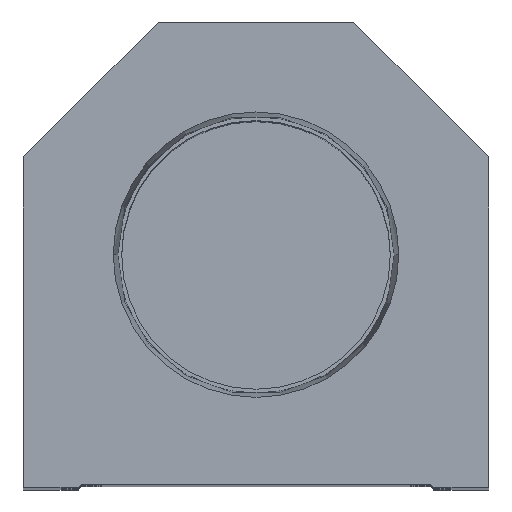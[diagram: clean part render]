
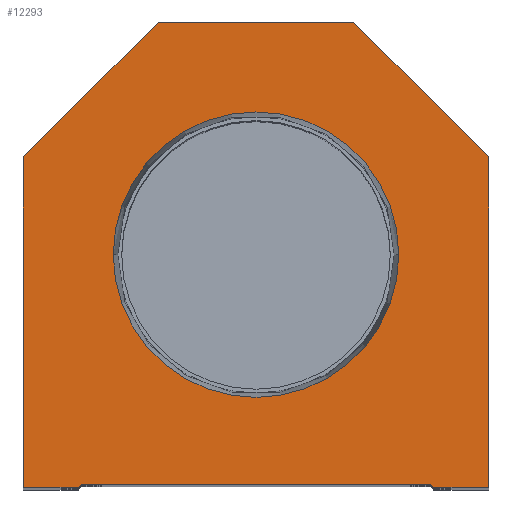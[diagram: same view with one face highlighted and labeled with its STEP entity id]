
A CAD part, top view. The second image highlights one B-rep face of the part: STEP entity #12293.
In plain terms, the highlighted planar face has unit normal (0, 0, 1).
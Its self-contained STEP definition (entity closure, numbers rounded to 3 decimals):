
#145 = ORIENTED_EDGE ( 'NONE', *, *, #10434, .T. ) ;
#711 = DIRECTION ( 'NONE',  ( 1., 0., 0. ) ) ;
#785 = EDGE_CURVE ( 'NONE', #1293, #3978, #13364, .T. ) ;
#1169 = VERTEX_POINT ( 'NONE', #11177 ) ;
#1179 = ORIENTED_EDGE ( 'NONE', *, *, #4977, .T. ) ;
#1293 = VERTEX_POINT ( 'NONE', #13226 ) ;
#1436 = VECTOR ( 'NONE', #4832, 1000. ) ;
#1624 = EDGE_CURVE ( 'NONE', #3978, #3878, #14485, .T. ) ;
#1856 = LINE ( 'NONE', #8742, #3808 ) ;
#1877 = FACE_BOUND ( 'NONE', #7282, .T. ) ;
#1973 = FACE_OUTER_BOUND ( 'NONE', #10553, .T. ) ;
#2153 = PLANE ( 'NONE',  #15951 ) ;
#2162 = CARTESIAN_POINT ( 'NONE',  ( 28.6, 0.5, 0. ) ) ;
#2211 = CIRCLE ( 'NONE', #15718, 23.374 ) ;
#2218 = CARTESIAN_POINT ( 'NONE',  ( 28.6, 0., 0. ) ) ;
#2314 = DIRECTION ( 'NONE',  ( 1., 0., 0. ) ) ;
#2437 = CARTESIAN_POINT ( 'NONE',  ( -28.6, 0.5, 0. ) ) ;
#2720 = VERTEX_POINT ( 'NONE', #14359 ) ;
#2945 = LINE ( 'NONE', #12783, #6847 ) ;
#3808 = VECTOR ( 'NONE', #13086, 1000. ) ;
#3878 = VERTEX_POINT ( 'NONE', #17147 ) ;
#3978 = VERTEX_POINT ( 'NONE', #9120 ) ;
#4209 = LINE ( 'NONE', #13898, #4899 ) ;
#4249 = DIRECTION ( 'NONE',  ( 1., 0., 0. ) ) ;
#4554 = VECTOR ( 'NONE', #9362, 1000. ) ;
#4832 = DIRECTION ( 'NONE',  ( 0., -1., 0. ) ) ;
#4899 = VECTOR ( 'NONE', #7034, 1000. ) ;
#4977 = EDGE_CURVE ( 'NONE', #14203, #1169, #2945, .T. ) ;
#5187 = EDGE_CURVE ( 'NONE', #17102, #11049, #9958, .T. ) ;
#5466 = CIRCLE ( 'NONE', #7524, 23.374 ) ;
#5533 = DIRECTION ( 'NONE',  ( 0., 0., 1. ) ) ;
#5560 = ORIENTED_EDGE ( 'NONE', *, *, #9514, .T. ) ;
#5703 = CARTESIAN_POINT ( 'NONE',  ( -38.1, 54.1, 0. ) ) ;
#5854 = CARTESIAN_POINT ( 'NONE',  ( -29.1, 0., 0. ) ) ;
#6301 = LINE ( 'NONE', #11853, #1436 ) ;
#6511 = CARTESIAN_POINT ( 'NONE',  ( -23.374, 38.1, 0. ) ) ;
#6691 = CARTESIAN_POINT ( 'NONE',  ( 23.374, 38.1, 0. ) ) ;
#6730 = ORIENTED_EDGE ( 'NONE', *, *, #12254, .T. ) ;
#6847 = VECTOR ( 'NONE', #11471, 1000. ) ;
#6848 = VERTEX_POINT ( 'NONE', #2162 ) ;
#7034 = DIRECTION ( 'NONE',  ( -0.707, -0.707, 0. ) ) ;
#7282 = EDGE_LOOP ( 'NONE', ( #7604, #12028 ) ) ;
#7524 = AXIS2_PLACEMENT_3D ( 'NONE', #11328, #15856, #16969 ) ;
#7577 = EDGE_CURVE ( 'NONE', #15036, #15064, #2211, .T. ) ;
#7604 = ORIENTED_EDGE ( 'NONE', *, *, #7577, .F. ) ;
#8742 = CARTESIAN_POINT ( 'NONE',  ( 14.55, 14.55, 0. ) ) ;
#8770 = DIRECTION ( 'NONE',  ( 1., 0., 0. ) ) ;
#8878 = VECTOR ( 'NONE', #14399, 1000. ) ;
#9079 = EDGE_CURVE ( 'NONE', #1169, #6848, #15303, .T. ) ;
#9120 = CARTESIAN_POINT ( 'NONE',  ( 38.1, 0., 0. ) ) ;
#9362 = DIRECTION ( 'NONE',  ( -0.707, 0.707, 0. ) ) ;
#9514 = EDGE_CURVE ( 'NONE', #13790, #2720, #6301, .T. ) ;
#9958 = LINE ( 'NONE', #13791, #11586 ) ;
#10434 = EDGE_CURVE ( 'NONE', #3878, #17102, #18115, .T. ) ;
#10553 = EDGE_LOOP ( 'NONE', ( #6730, #1179, #13447, #15778, #14317, #10788, #145, #14102, #15544, #5560 ) ) ;
#10788 = ORIENTED_EDGE ( 'NONE', *, *, #1624, .T. ) ;
#11049 = VERTEX_POINT ( 'NONE', #18144 ) ;
#11177 = CARTESIAN_POINT ( 'NONE',  ( -28.6, 0.5, 0. ) ) ;
#11328 = CARTESIAN_POINT ( 'NONE',  ( 0., 38.1, 0. ) ) ;
#11471 = DIRECTION ( 'NONE',  ( 0.707, 0.707, 0. ) ) ;
#11586 = VECTOR ( 'NONE', #17916, 1000. ) ;
#11853 = CARTESIAN_POINT ( 'NONE',  ( -38.1, 0., 0. ) ) ;
#12028 = ORIENTED_EDGE ( 'NONE', *, *, #13809, .F. ) ;
#12254 = EDGE_CURVE ( 'NONE', #2720, #14203, #15865, .T. ) ;
#12293 = ADVANCED_FACE ( 'NONE', ( #1877, #1973 ), #2153, .T. ) ;
#12351 = DIRECTION ( 'NONE',  ( 1., 0., 0. ) ) ;
#12733 = CARTESIAN_POINT ( 'NONE',  ( 0., 38.1, 0. ) ) ;
#12783 = CARTESIAN_POINT ( 'NONE',  ( -14.55, 14.55, 0. ) ) ;
#13086 = DIRECTION ( 'NONE',  ( 0.707, -0.707, 0. ) ) ;
#13164 = VECTOR ( 'NONE', #12351, 1000. ) ;
#13226 = CARTESIAN_POINT ( 'NONE',  ( 29.1, 0., 0. ) ) ;
#13364 = LINE ( 'NONE', #2218, #16939 ) ;
#13447 = ORIENTED_EDGE ( 'NONE', *, *, #9079, .T. ) ;
#13790 = VERTEX_POINT ( 'NONE', #5703 ) ;
#13791 = CARTESIAN_POINT ( 'NONE',  ( 16., 76.2, 0. ) ) ;
#13809 = EDGE_CURVE ( 'NONE', #15064, #15036, #5466, .T. ) ;
#13896 = VECTOR ( 'NONE', #711, 1000. ) ;
#13898 = CARTESIAN_POINT ( 'NONE',  ( -38.1, 54.1, 0. ) ) ;
#14102 = ORIENTED_EDGE ( 'NONE', *, *, #5187, .T. ) ;
#14203 = VERTEX_POINT ( 'NONE', #5854 ) ;
#14317 = ORIENTED_EDGE ( 'NONE', *, *, #785, .T. ) ;
#14359 = CARTESIAN_POINT ( 'NONE',  ( -38.1, 0., 0. ) ) ;
#14399 = DIRECTION ( 'NONE',  ( 0., 1., 0. ) ) ;
#14485 = LINE ( 'NONE', #16048, #8878 ) ;
#14691 = EDGE_CURVE ( 'NONE', #11049, #13790, #4209, .T. ) ;
#14749 = CARTESIAN_POINT ( 'NONE',  ( -28.6, 0., 0. ) ) ;
#15036 = VERTEX_POINT ( 'NONE', #6691 ) ;
#15064 = VERTEX_POINT ( 'NONE', #6511 ) ;
#15166 = CARTESIAN_POINT ( 'NONE',  ( 38.1, 54.1, 0. ) ) ;
#15303 = LINE ( 'NONE', #2437, #13164 ) ;
#15544 = ORIENTED_EDGE ( 'NONE', *, *, #14691, .T. ) ;
#15718 = AXIS2_PLACEMENT_3D ( 'NONE', #12733, #5533, #4249 ) ;
#15733 = EDGE_CURVE ( 'NONE', #6848, #1293, #1856, .T. ) ;
#15778 = ORIENTED_EDGE ( 'NONE', *, *, #15733, .T. ) ;
#15856 = DIRECTION ( 'NONE',  ( 0., 0., 1. ) ) ;
#15865 = LINE ( 'NONE', #14749, #13896 ) ;
#15951 = AXIS2_PLACEMENT_3D ( 'NONE', #17254, #17522, #8770 ) ;
#16048 = CARTESIAN_POINT ( 'NONE',  ( 38.1, 0., 0. ) ) ;
#16264 = CARTESIAN_POINT ( 'NONE',  ( 16., 76.2, 0. ) ) ;
#16939 = VECTOR ( 'NONE', #2314, 1000. ) ;
#16969 = DIRECTION ( 'NONE',  ( 1., 0., 0. ) ) ;
#17102 = VERTEX_POINT ( 'NONE', #16264 ) ;
#17147 = CARTESIAN_POINT ( 'NONE',  ( 38.1, 54.1, 0. ) ) ;
#17254 = CARTESIAN_POINT ( 'NONE',  ( 0., 0., 0. ) ) ;
#17522 = DIRECTION ( 'NONE',  ( 0., 0., 1. ) ) ;
#17916 = DIRECTION ( 'NONE',  ( -1., 0., 0. ) ) ;
#18115 = LINE ( 'NONE', #15166, #4554 ) ;
#18144 = CARTESIAN_POINT ( 'NONE',  ( -16., 76.2, 0. ) ) ;
